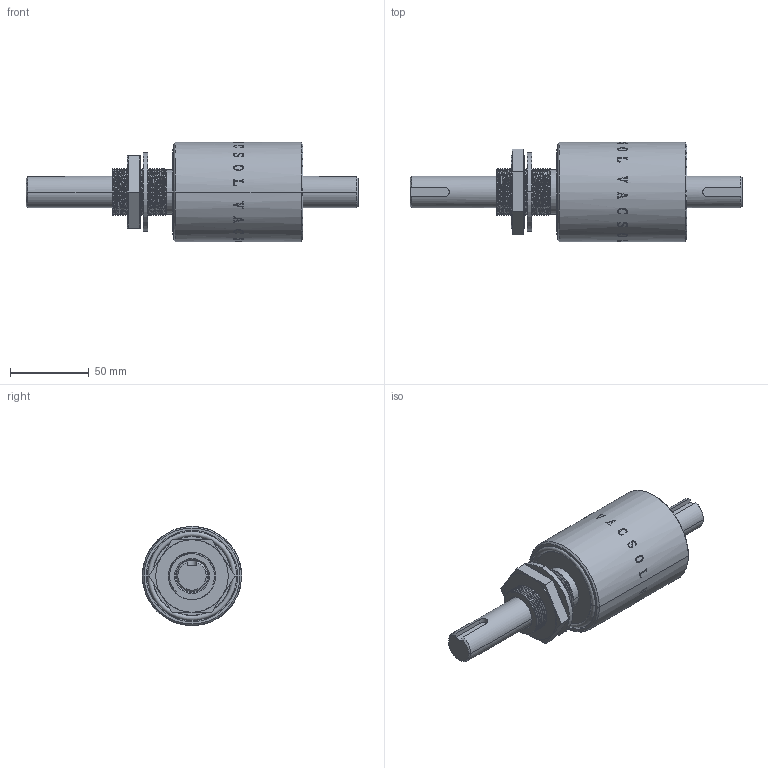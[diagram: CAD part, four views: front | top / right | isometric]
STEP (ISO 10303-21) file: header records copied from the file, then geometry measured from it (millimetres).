
FILE_DESCRIPTION (( 'STEP AP214' ), '1' );
FILE_NAME ('m20.STEP', '2010-08-26T13:14:47', ( 'user' ), ( '' ), 'SwSTEP 2.0', 'SolidWorks 2007', '' );
FILE_SCHEMA (( 'AUTOMOTIVE_DESIGN' ));
Length unit declared in the file: millimetre
Products named in the file (1): m20
Bounding box: 211 x 63 x 63 mm (x, y, z)
Volume: 320500.2 mm3; surface area: 42986.8 mm2
Topology: 3 solids, 3 shells, 452 faces, 1210 edges, 796 vertices
Faces by surface type: bspline 261, cylinder 89, plane 84, cone 14, torus 4
Entity records: 52540 total; most frequent: CARTESIAN_POINT 40123, ORIENTED_EDGE 2420, EDGE_CURVE 1210, DIRECTION 841, B_SPLINE_CURVE_WITH_KNOTS 819, VERTEX_POINT 796, EDGE_LOOP 488, ADVANCED_FACE 452
